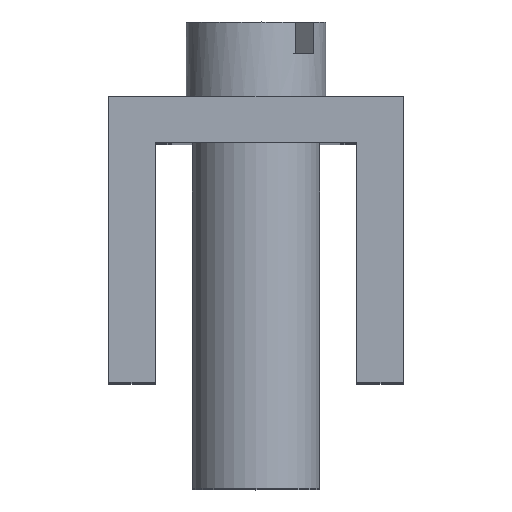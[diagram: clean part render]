
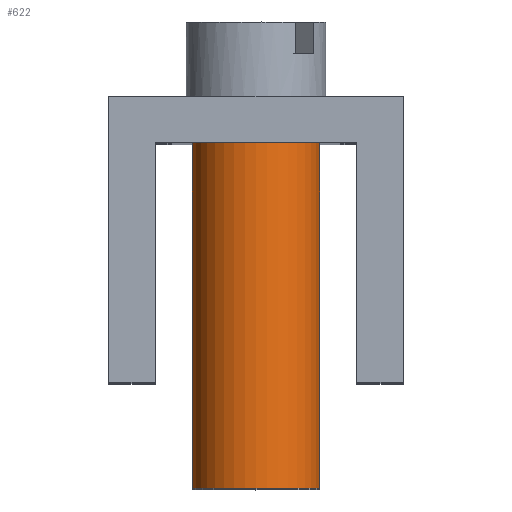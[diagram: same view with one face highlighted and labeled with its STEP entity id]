
A CAD part, top view. The second image highlights one B-rep face of the part: STEP entity #622.
In plain terms, the highlighted cylindrical face has radius 3 mm (diameter 6 mm), a partial arc.
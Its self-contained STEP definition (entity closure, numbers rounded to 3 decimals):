
#524=CARTESIAN_POINT('',(189.601,74.07,40.));
#525=VERTEX_POINT('',#524);
#526=CARTESIAN_POINT('',(195.601,74.07,40.));
#527=VERTEX_POINT('',#526);
#528=CARTESIAN_POINT('',(192.601,74.07,40.));
#529=DIRECTION('',(-1.,0.,0.));
#530=DIRECTION('',(-0.,1.,0.));
#531=AXIS2_PLACEMENT_3D('',#528,#530,#529);
#532=CIRCLE('',#531,3.);
#533=EDGE_CURVE('',#525,#527,#532,.T.);
#580=CARTESIAN_POINT('',(195.601,57.77,40.));
#581=VERTEX_POINT('',#580);
#582=CARTESIAN_POINT('',(189.601,57.77,40.));
#583=VERTEX_POINT('',#582);
#584=CARTESIAN_POINT('',(192.601,57.77,40.));
#585=DIRECTION('',(1.,0.,0.));
#586=DIRECTION('',(-0.,-1.,0.));
#587=AXIS2_PLACEMENT_3D('',#584,#586,#585);
#588=CIRCLE('',#587,3.);
#589=EDGE_CURVE('',#581,#583,#588,.T.);
#601=CARTESIAN_POINT('',(192.601,57.77,40.));
#602=DIRECTION('',(1.,0.,0.));
#603=DIRECTION('',(0.,1.,0.));
#604=AXIS2_PLACEMENT_3D('',#601,#603,#602);
#605=CYLINDRICAL_SURFACE('',#604,3.);
#606=ORIENTED_EDGE('',*,*,#589,.F.);
#607=CARTESIAN_POINT('',(195.601,57.77,40.));
#608=DIRECTION('',(0.,1.,0.));
#609=VECTOR('',#608,16.3);
#610=LINE('',#607,#609);
#611=EDGE_CURVE('',#581,#527,#610,.T.);
#612=ORIENTED_EDGE('E83',*,*,#611,.T.);
#613=ORIENTED_EDGE('E83',*,*,#533,.F.);
#614=CARTESIAN_POINT('',(189.601,74.07,40.));
#615=DIRECTION('',(0.,-1.,0.));
#616=VECTOR('',#615,16.3);
#617=LINE('',#614,#616);
#618=EDGE_CURVE('',#525,#583,#617,.T.);
#619=ORIENTED_EDGE('E84',*,*,#618,.T.);
#620=EDGE_LOOP('',(#606,#612,#613,#619));
#621=FACE_OUTER_BOUND('',#620,.T.);
#622=ADVANCED_FACE('F13',(#621),#605,.T.);
